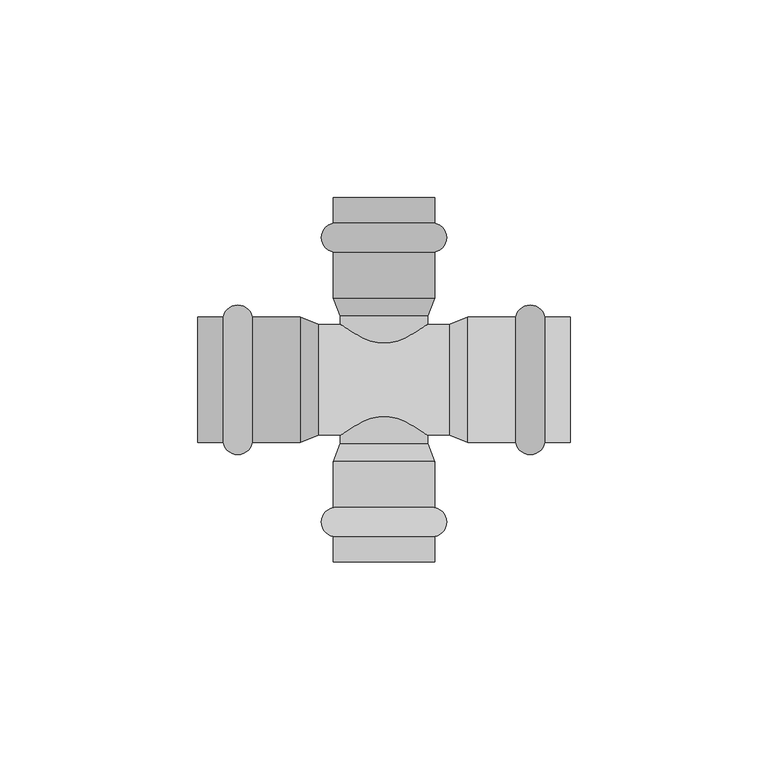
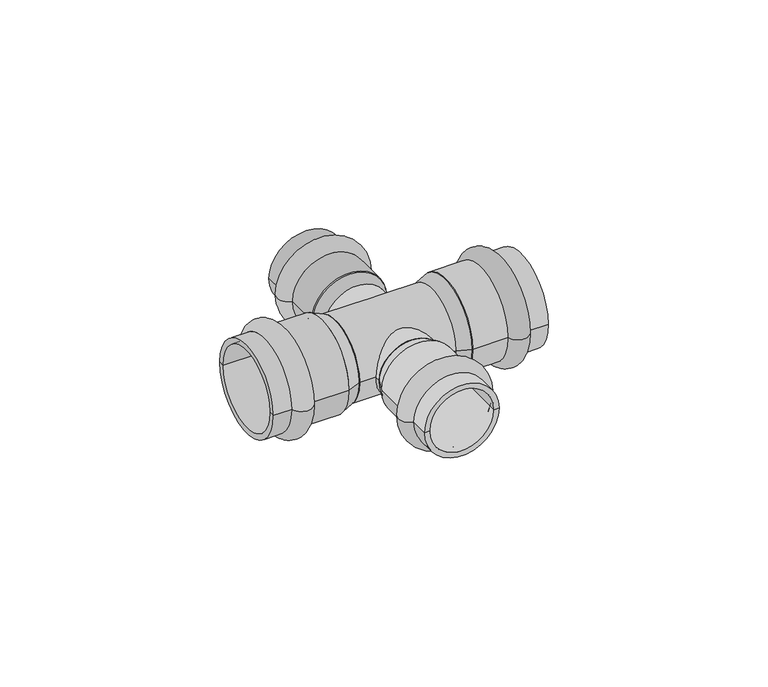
"""IFC4 building model written with IfcOpenShell, lengths in millimetres: pipe fitting geometry, VALTEC_VTi.941.I_Крестовина нержавеющая сталь : VTi.941.I."""

from ifc_helpers import new_model, si_unit, point, frame, origin, origin_2d, place, context, project, spatial, polyline, circle_curve, ellipse_curve, trimmed, segment, composite_curve, outline, extrude, source, transform, mapped, element, save
from ifc_brep_helpers import plane_surface, cylinder_surface, revolved_surface, advanced_brep


def pipe_fitting_5b3067d8(model_context):
    return source(origin(), model_context, "Body", "SolidModel", [
        advanced_brep(
        [(12.8, -39.6242346, 0.0), (-12.8, -39.6242346, 0.0), (-12.8, -32.2757654, 0.0), (12.8, -32.2757654, 0.0), (12.8, -46.0, 0.0), (-12.8, -46.0, 0.0), (11.0, -46.0, 0.0), (-11.0, -46.0, 0.0), (11.0, -20.7, 0.0), (-11.0, -20.7, 0.0), (12.8, -20.7, 0.0), (-12.8, -20.7, 0.0)],
        [
            (0, 1, circle_curve(frame((0.0, -39.6242346, 0.0), z_axis=(0.0, 1.0, 0.0), x_axis=(-1.0, 0.0, 0.0)), 12.8)),
            (1, 2, circle_curve(frame((-12.05, -35.95, 0.0), z_axis=(0.0, 0.0, -1.0), x_axis=(0.0, 1.0, 0.0)), 3.75)),
            (2, 3, circle_curve(frame((0.0, -32.2757654, 0.0), z_axis=(0.0, -1.0, 0.0), x_axis=(-1.0, 0.0, 0.0)), 12.8)),
            (3, 0, circle_curve(frame((12.05, -35.95, 0.0), z_axis=(0.0, 0.0, -1.0), x_axis=(0.0, 1.0, 0.0)), 3.75)),
            (1, 0, circle_curve(frame((0.0, -39.6242346, 0.0), z_axis=(0.0, 1.0, 0.0), x_axis=(-1.0, 0.0, 0.0)), 12.8)),
            (3, 2, circle_curve(frame((0.0, -32.2757654, 0.0), z_axis=(0.0, -1.0, 0.0), x_axis=(-1.0, 0.0, 0.0)), 12.8)),
            (4, 5, circle_curve(frame((0.0, -46.0, 0.0), z_axis=(0.0, 1.0, 0.0), x_axis=(-1.0, 0.0, 0.0)), 12.8)),
            (5, 1),
            (0, 4),
            (5, 4, circle_curve(frame((0.0, -46.0, 0.0), z_axis=(0.0, 1.0, 0.0), x_axis=(-1.0, 0.0, 0.0)), 12.8)),
            (6, 7, circle_curve(frame((0.0, -46.0, 0.0), z_axis=(0.0, 1.0, 0.0), x_axis=(-1.0, 0.0, 0.0)), 11.0)),
            (7, 5),
            (4, 6),
            (7, 6, circle_curve(frame((0.0, -46.0, 0.0), z_axis=(0.0, 1.0, 0.0), x_axis=(-1.0, 0.0, 0.0)), 11.0)),
            (8, 9, circle_curve(frame((0.0, -20.7, 0.0), z_axis=(0.0, 1.0, 0.0), x_axis=(-1.0, 0.0, 0.0)), 11.0)),
            (9, 7),
            (6, 8),
            (9, 8, circle_curve(frame((0.0, -20.7, 0.0), z_axis=(0.0, 1.0, 0.0), x_axis=(-1.0, 0.0, 0.0)), 11.0)),
            (10, 11, circle_curve(frame((0.0, -20.7, 0.0), z_axis=(0.0, 1.0, 0.0), x_axis=(-1.0, 0.0, 0.0)), 12.8)),
            (11, 9),
            (8, 10),
            (11, 10, circle_curve(frame((0.0, -20.7, 0.0), z_axis=(0.0, 1.0, 0.0), x_axis=(-1.0, 0.0, 0.0)), 12.8)),
            (2, 11),
            (10, 3),
        ],
        [
            revolved_surface(trimmed(ellipse_curve(frame((-12.05, -35.95, 0.0), z_axis=(0.0, 0.0, 1.0), x_axis=(0.0, 1.0, 0.0)), 3.75, 3.75), [point((-12.8, -32.2757654, 0.0))], [point((-12.8, -39.6242346, 0.0))], True, "CARTESIAN"), (0.0, -49.5364426, 0.0), (0.0, -1.0, 0.0)),
            cylinder_surface(frame((0.0, -49.5364426, 0.0), z_axis=(0.0, -1.0, 0.0), x_axis=(-1.0, 0.0, 0.0)), 12.8),
            plane_surface(frame((0.0, -46.0, 0.0), z_axis=(0.0, -1.0, 0.0), x_axis=(-1.0, 0.0, 0.0))),
            revolved_surface(polyline([(-11.0, -46.0, 0.0), (-11.0, -20.7, 0.0)]), (0.0, -49.5364426, 0.0), (0.0, -1.0, 0.0)),
            plane_surface(frame((0.0, -20.7, 0.0), z_axis=(0.0, 1.0, 0.0), x_axis=(-1.0, 0.0, 0.0))),
        ],
        [
            (0, [[1, 2, 3, 4]]),
            (0, [[5, -4, 6, -2]]),
            (1, [[7, 8, -1, 9]]),
            (1, [[10, -9, -5, -8]]),
            (2, [[11, 12, -7, 13]]),
            (2, [[14, -13, -10, -12]]),
            (3, [[15, 16, -11, 17]]),
            (3, [[18, -17, -14, -16]]),
            (4, [[19, 20, -15, 21]]),
            (4, [[22, -21, -18, -20]]),
            (1, [[-3, 23, -19, 24]]),
            (1, [[-6, -24, -22, -23]]),
        ],
    ),
        advanced_brep(
        [(40.6242346, 15.9, 0.0), (40.6242346, -15.9, 0.0), (33.2757654, -15.9, 0.0), (33.2757654, 15.9, 0.0), (47.0, 15.9, 0.0), (47.0, -15.9, 0.0), (47.0, 14.0, 0.0), (47.0, -14.0, 0.0), (21.15, 14.0, 0.0), (21.15, -14.0, 0.0), (21.15, 15.9, 0.0), (21.15, -15.9, 0.0)],
        [
            (0, 1, circle_curve(frame((40.6242346, 0.0, 0.0), z_axis=(-1.0, 0.0, 0.0), x_axis=(0.0, -1.0, 0.0)), 15.9)),
            (1, 2, circle_curve(frame((36.95, -15.15, 0.0), z_axis=(0.0, 0.0, -1.0), x_axis=(-1.0, 0.0, 0.0)), 3.75)),
            (2, 3, circle_curve(frame((33.2757654, 0.0, 0.0), z_axis=(1.0, 0.0, 0.0), x_axis=(0.0, -1.0, 0.0)), 15.9)),
            (3, 0, circle_curve(frame((36.95, 15.15, 0.0), z_axis=(0.0, 0.0, -1.0), x_axis=(-1.0, 0.0, 0.0)), 3.75)),
            (1, 0, circle_curve(frame((40.6242346, 0.0, 0.0), z_axis=(-1.0, 0.0, 0.0), x_axis=(0.0, -1.0, 0.0)), 15.9)),
            (3, 2, circle_curve(frame((33.2757654, 0.0, 0.0), z_axis=(1.0, 0.0, 0.0), x_axis=(0.0, -1.0, 0.0)), 15.9)),
            (4, 5, circle_curve(frame((47.0, 0.0, 0.0), z_axis=(-1.0, 0.0, 0.0), x_axis=(0.0, -1.0, 0.0)), 15.9)),
            (5, 1),
            (0, 4),
            (5, 4, circle_curve(frame((47.0, 0.0, 0.0), z_axis=(-1.0, 0.0, 0.0), x_axis=(0.0, -1.0, 0.0)), 15.9)),
            (6, 7, circle_curve(frame((47.0, 0.0, 0.0), z_axis=(-1.0, 0.0, 0.0), x_axis=(0.0, -1.0, 0.0)), 14.0)),
            (7, 5),
            (4, 6),
            (7, 6, circle_curve(frame((47.0, 0.0, 0.0), z_axis=(-1.0, 0.0, 0.0), x_axis=(0.0, -1.0, 0.0)), 14.0)),
            (8, 9, circle_curve(frame((21.15, 0.0, 0.0), z_axis=(-1.0, 0.0, 0.0), x_axis=(0.0, -1.0, 0.0)), 14.0)),
            (9, 7),
            (6, 8),
            (9, 8, circle_curve(frame((21.15, 0.0, 0.0), z_axis=(-1.0, 0.0, 0.0), x_axis=(0.0, -1.0, 0.0)), 14.0)),
            (10, 11, circle_curve(frame((21.15, 0.0, 0.0), z_axis=(-1.0, 0.0, 0.0), x_axis=(0.0, -1.0, 0.0)), 15.9)),
            (11, 9),
            (8, 10),
            (11, 10, circle_curve(frame((21.15, 0.0, 0.0), z_axis=(-1.0, 0.0, 0.0), x_axis=(0.0, -1.0, 0.0)), 15.9)),
            (2, 11),
            (10, 3),
        ],
        [
            revolved_surface(trimmed(ellipse_curve(frame((36.95, -15.15, 0.0), z_axis=(0.0, 0.0, 1.0), x_axis=(-1.0, 0.0, 0.0)), 3.75, 3.75), [point((33.2757654, -15.9, 0.0))], [point((40.6242346, -15.9, 0.0))], True, "CARTESIAN"), (50.5364426, 0.0, 0.0), (1.0, 0.0, 0.0)),
            cylinder_surface(frame((50.5364426, 0.0, 0.0), z_axis=(1.0, 0.0, 0.0), x_axis=(0.0, -1.0, 0.0)), 15.9),
            plane_surface(frame((47.0, 0.0, 0.0), z_axis=(1.0, 0.0, 0.0), x_axis=(0.0, -1.0, 0.0))),
            revolved_surface(polyline([(47.0, -14.0, 0.0), (21.15, -14.0, 0.0)]), (50.5364426, 0.0, 0.0), (1.0, 0.0, 0.0)),
            plane_surface(frame((21.15, 0.0, 0.0), z_axis=(-1.0, 0.0, 0.0), x_axis=(0.0, -1.0, 0.0))),
        ],
        [
            (0, [[1, 2, 3, 4]]),
            (0, [[5, -4, 6, -2]]),
            (1, [[7, 8, -1, 9]]),
            (1, [[10, -9, -5, -8]]),
            (2, [[11, 12, -7, 13]]),
            (2, [[14, -13, -10, -12]]),
            (3, [[15, 16, -11, 17]]),
            (3, [[18, -17, -14, -16]]),
            (4, [[19, 20, -15, 21]]),
            (4, [[22, -21, -18, -20]]),
            (1, [[-3, 23, -19, 24]]),
            (1, [[-6, -24, -22, -23]]),
        ],
    ),
        advanced_brep(
        [(-40.6242346, -15.9, 0.0), (-40.6242346, 15.9, 0.0), (-33.2757654, 15.9, 0.0), (-33.2757654, -15.9, 0.0), (-47.0, -15.9, 0.0), (-47.0, 15.9, 0.0), (-47.0, -14.0, 0.0), (-47.0, 14.0, 0.0), (-21.15, -14.0, 0.0), (-21.15, 14.0, 0.0), (-21.15, -15.9, 0.0), (-21.15, 15.9, 0.0)],
        [
            (0, 1, circle_curve(frame((-40.6242346, 0.0, 0.0), z_axis=(1.0, 0.0, 0.0), x_axis=(0.0, 1.0, 0.0)), 15.9)),
            (1, 2, circle_curve(frame((-36.95, 15.15, 0.0), z_axis=(0.0, 0.0, -1.0), x_axis=(1.0, 0.0, 0.0)), 3.75)),
            (2, 3, circle_curve(frame((-33.2757654, 0.0, 0.0), z_axis=(-1.0, 0.0, 0.0), x_axis=(0.0, 1.0, 0.0)), 15.9)),
            (3, 0, circle_curve(frame((-36.95, -15.15, 0.0), z_axis=(0.0, 0.0, -1.0), x_axis=(1.0, 0.0, 0.0)), 3.75)),
            (1, 0, circle_curve(frame((-40.6242346, 0.0, 0.0), z_axis=(1.0, 0.0, 0.0), x_axis=(0.0, 1.0, 0.0)), 15.9)),
            (3, 2, circle_curve(frame((-33.2757654, 0.0, 0.0), z_axis=(-1.0, 0.0, 0.0), x_axis=(0.0, 1.0, 0.0)), 15.9)),
            (4, 5, circle_curve(frame((-47.0, 0.0, 0.0), z_axis=(1.0, 0.0, 0.0), x_axis=(0.0, 1.0, 0.0)), 15.9)),
            (5, 1),
            (0, 4),
            (5, 4, circle_curve(frame((-47.0, 0.0, 0.0), z_axis=(1.0, 0.0, 0.0), x_axis=(0.0, 1.0, 0.0)), 15.9)),
            (6, 7, circle_curve(frame((-47.0, 0.0, 0.0), z_axis=(1.0, 0.0, 0.0), x_axis=(0.0, 1.0, 0.0)), 14.0)),
            (7, 5),
            (4, 6),
            (7, 6, circle_curve(frame((-47.0, 0.0, 0.0), z_axis=(1.0, 0.0, 0.0), x_axis=(0.0, 1.0, 0.0)), 14.0)),
            (8, 9, circle_curve(frame((-21.15, 0.0, 0.0), z_axis=(1.0, 0.0, 0.0), x_axis=(0.0, 1.0, 0.0)), 14.0)),
            (9, 7),
            (6, 8),
            (9, 8, circle_curve(frame((-21.15, 0.0, 0.0), z_axis=(1.0, 0.0, 0.0), x_axis=(0.0, 1.0, 0.0)), 14.0)),
            (10, 11, circle_curve(frame((-21.15, 0.0, 0.0), z_axis=(1.0, 0.0, 0.0), x_axis=(0.0, 1.0, 0.0)), 15.9)),
            (11, 9),
            (8, 10),
            (11, 10, circle_curve(frame((-21.15, 0.0, 0.0), z_axis=(1.0, 0.0, 0.0), x_axis=(0.0, 1.0, 0.0)), 15.9)),
            (2, 11),
            (10, 3),
        ],
        [
            revolved_surface(trimmed(ellipse_curve(frame((-36.95, 15.15, 0.0), z_axis=(0.0, 0.0, 1.0), x_axis=(1.0, 0.0, 0.0)), 3.75, 3.75), [point((-33.2757654, 15.9, 0.0))], [point((-40.6242346, 15.9, 0.0))], True, "CARTESIAN"), (-50.5364426, 0.0, 0.0), (-1.0, 0.0, 0.0)),
            cylinder_surface(frame((-50.5364426, 0.0, 0.0), z_axis=(-1.0, 0.0, 0.0), x_axis=(0.0, 1.0, 0.0)), 15.9),
            plane_surface(frame((-47.0, 0.0, 0.0), z_axis=(-1.0, 0.0, 0.0), x_axis=(0.0, 1.0, 0.0))),
            revolved_surface(polyline([(-47.0, 14.0, 0.0), (-21.15, 14.0, 0.0)]), (-50.5364426, 0.0, 0.0), (-1.0, 0.0, 0.0)),
            plane_surface(frame((-21.15, 0.0, 0.0), z_axis=(1.0, 0.0, 0.0), x_axis=(0.0, 1.0, 0.0))),
        ],
        [
            (0, [[1, 2, 3, 4]]),
            (0, [[5, -4, 6, -2]]),
            (1, [[7, 8, -1, 9]]),
            (1, [[10, -9, -5, -8]]),
            (2, [[11, 12, -7, 13]]),
            (2, [[14, -13, -10, -12]]),
            (3, [[15, 16, -11, 17]]),
            (3, [[18, -17, -14, -16]]),
            (4, [[19, 20, -15, 21]]),
            (4, [[22, -21, -18, -20]]),
            (1, [[-3, 23, -19, 24]]),
            (1, [[-6, -24, -22, -23]]),
        ],
    ),
        advanced_brep(
        [(-12.8, 39.6242346, 0.0), (12.8, 39.6242346, 0.0), (12.8, 32.2757654, 0.0), (-12.8, 32.2757654, 0.0), (-12.8, 46.0, 0.0), (12.8, 46.0, 0.0), (-11.0, 46.0, 0.0), (11.0, 46.0, 0.0), (-11.0, 20.7, 0.0), (11.0, 20.7, 0.0), (-12.8, 20.7, 0.0), (12.8, 20.7, 0.0)],
        [
            (0, 1, circle_curve(frame((0.0, 39.6242346, 0.0), z_axis=(0.0, -1.0, 0.0), x_axis=(1.0, 0.0, 0.0)), 12.8)),
            (1, 2, circle_curve(frame((12.05, 35.95, 0.0), z_axis=(0.0, 0.0, -1.0), x_axis=(0.0, -1.0, 0.0)), 3.75)),
            (2, 3, circle_curve(frame((0.0, 32.2757654, 0.0), z_axis=(0.0, 1.0, 0.0), x_axis=(1.0, 0.0, 0.0)), 12.8)),
            (3, 0, circle_curve(frame((-12.05, 35.95, 0.0), z_axis=(0.0, 0.0, -1.0), x_axis=(0.0, -1.0, 0.0)), 3.75)),
            (1, 0, circle_curve(frame((0.0, 39.6242346, 0.0), z_axis=(0.0, -1.0, 0.0), x_axis=(1.0, 0.0, 0.0)), 12.8)),
            (3, 2, circle_curve(frame((0.0, 32.2757654, 0.0), z_axis=(0.0, 1.0, 0.0), x_axis=(1.0, 0.0, 0.0)), 12.8)),
            (4, 5, circle_curve(frame((0.0, 46.0, 0.0), z_axis=(0.0, -1.0, 0.0), x_axis=(1.0, 0.0, 0.0)), 12.8)),
            (5, 1),
            (0, 4),
            (5, 4, circle_curve(frame((0.0, 46.0, 0.0), z_axis=(0.0, -1.0, 0.0), x_axis=(1.0, 0.0, 0.0)), 12.8)),
            (6, 7, circle_curve(frame((0.0, 46.0, 0.0), z_axis=(0.0, -1.0, 0.0), x_axis=(1.0, 0.0, 0.0)), 11.0)),
            (7, 5),
            (4, 6),
            (7, 6, circle_curve(frame((0.0, 46.0, 0.0), z_axis=(0.0, -1.0, 0.0), x_axis=(1.0, 0.0, 0.0)), 11.0)),
            (8, 9, circle_curve(frame((0.0, 20.7, 0.0), z_axis=(0.0, -1.0, 0.0), x_axis=(1.0, 0.0, 0.0)), 11.0)),
            (9, 7),
            (6, 8),
            (9, 8, circle_curve(frame((0.0, 20.7, 0.0), z_axis=(0.0, -1.0, 0.0), x_axis=(1.0, 0.0, 0.0)), 11.0)),
            (10, 11, circle_curve(frame((0.0, 20.7, 0.0), z_axis=(0.0, -1.0, 0.0), x_axis=(1.0, 0.0, 0.0)), 12.8)),
            (11, 9),
            (8, 10),
            (11, 10, circle_curve(frame((0.0, 20.7, 0.0), z_axis=(0.0, -1.0, 0.0), x_axis=(1.0, 0.0, 0.0)), 12.8)),
            (2, 11),
            (10, 3),
        ],
        [
            revolved_surface(trimmed(ellipse_curve(frame((12.05, 35.95, 0.0), z_axis=(0.0, 0.0, 1.0), x_axis=(0.0, -1.0, 0.0)), 3.75, 3.75), [point((12.8, 32.2757654, 0.0))], [point((12.8, 39.6242346, 0.0))], True, "CARTESIAN"), (0.0, 49.5364426, 0.0), (0.0, 1.0, 0.0)),
            cylinder_surface(frame((0.0, 49.5364426, 0.0), z_axis=(0.0, 1.0, 0.0), x_axis=(1.0, 0.0, 0.0)), 12.8),
            plane_surface(frame((0.0, 46.0, 0.0), z_axis=(0.0, 1.0, 0.0), x_axis=(1.0, 0.0, 0.0))),
            revolved_surface(polyline([(11.0, 46.0, 0.0), (11.0, 20.7, 0.0)]), (0.0, 49.5364426, 0.0), (0.0, 1.0, 0.0)),
            plane_surface(frame((0.0, 20.7, 0.0), z_axis=(0.0, -1.0, 0.0), x_axis=(1.0, 0.0, 0.0))),
        ],
        [
            (0, [[1, 2, 3, 4]]),
            (0, [[5, -4, 6, -2]]),
            (1, [[7, 8, -1, 9]]),
            (1, [[10, -9, -5, -8]]),
            (2, [[11, 12, -7, 13]]),
            (2, [[14, -13, -10, -12]]),
            (3, [[15, 16, -11, 17]]),
            (3, [[18, -17, -14, -16]]),
            (4, [[19, 20, -15, 21]]),
            (4, [[22, -21, -18, -20]]),
            (1, [[-3, 23, -19, 24]]),
            (1, [[-6, -24, -22, -23]]),
        ],
    ),
        extrude(outline(composite_curve([segment(trimmed(circle_curve(origin_2d(), 14.0), [point((-14.0, 0.0))], [point((14.0, 0.0))], False, "CARTESIAN"), True, "CONTINUOUS"), segment(trimmed(circle_curve(origin_2d(), 14.0), [point((14.0, 0.0))], [point((-14.0, 0.0))], False, "CARTESIAN"), True, "CONTINUOUS")], self_intersect=False)), frame((-16.45, 0.0, 0.0), z_axis=(1.0, 0.0, 0.0), x_axis=(0.0, 1.0, 0.0)), (0.0, 0.0, 1.0), 32.9),
        extrude(outline(composite_curve([segment(trimmed(circle_curve(origin_2d(), 11.0), [point((0.0, -11.0))], [point((0.0, 11.0))], False, "CARTESIAN"), True, "CONTINUOUS"), segment(trimmed(circle_curve(origin_2d(), 11.0), [point((0.0, 11.0))], [point((0.0, -11.0))], False, "CARTESIAN"), True, "CONTINUOUS")], self_intersect=False)), frame((0.0, -16.1, 0.0), z_axis=(0.0, 1.0, 0.0), x_axis=(0.0, 0.0, 1.0)), (0.0, 0.0, 1.0), 32.2),
        advanced_brep(
        [(-21.15, -15.9, 0.0), (-21.15, 15.9, 0.0), (-16.45, -14.0, 0.0), (-16.45, 14.0, 0.0)],
        [
            (0, 1, circle_curve(frame((-21.15, 0.0, 0.0), z_axis=(-1.0, 0.0, 0.0), x_axis=(0.0, -1.0, 0.0)), 15.9)),
            (1, 0, circle_curve(frame((-21.15, 0.0, 0.0), z_axis=(-1.0, 0.0, 0.0), x_axis=(0.0, 1.0, 0.0)), 15.9)),
            (2, 3, circle_curve(frame((-16.45, 0.0, 0.0), z_axis=(1.0, 0.0, 0.0), x_axis=(0.0, 1.0, 0.0)), 14.0)),
            (3, 2, circle_curve(frame((-16.45, 0.0, 0.0), z_axis=(1.0, 0.0, 0.0), x_axis=(0.0, -1.0, 0.0)), 14.0)),
            (2, 0),
            (1, 3),
        ],
        [
            plane_surface(frame((-21.15, 0.0, 0.0), z_axis=(-1.0, 0.0, 0.0), x_axis=(0.0, 0.0, 1.0))),
            plane_surface(frame((-16.45, 0.0, 0.0), z_axis=(1.0, 0.0, 0.0), x_axis=(0.0, 0.0, 1.0))),
            revolved_surface(polyline([(-16.45, -13.999999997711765, 0.0), (-21.149999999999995, -15.9, 0.0)]), (18.1815789, 0.0, 0.0), (-1.0, 0.0, 0.0)),
            revolved_surface(polyline([(-16.45, 13.999999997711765, 0.0), (-21.149999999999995, 15.9, 0.0)]), (18.1815789, 0.0, 0.0), (-1.0, 0.0, 0.0)),
        ],
        [
            (0, [[1, 2]]),
            (1, [[3, 4]]),
            (2, [[-3, 5, -2, 6]]),
            (3, [[-4, -6, -1, -5]]),
        ],
    ),
        advanced_brep(
        [(21.15, -15.9, 0.0), (21.15, 15.9, 0.0), (16.45, -14.0, 0.0), (16.45, 14.0, 0.0)],
        [
            (0, 1, circle_curve(frame((21.15, 0.0, 0.0), z_axis=(1.0, 0.0, 0.0), x_axis=(0.0, -1.0, 0.0)), 15.9)),
            (1, 0, circle_curve(frame((21.15, 0.0, 0.0), z_axis=(1.0, 0.0, 0.0), x_axis=(0.0, 1.0, 0.0)), 15.9)),
            (2, 3, circle_curve(frame((16.45, 0.0, 0.0), z_axis=(-1.0, 0.0, 0.0), x_axis=(0.0, 1.0, 0.0)), 14.0)),
            (3, 2, circle_curve(frame((16.45, 0.0, 0.0), z_axis=(-1.0, 0.0, 0.0), x_axis=(0.0, -1.0, 0.0)), 14.0)),
            (3, 1),
            (0, 2),
        ],
        [
            plane_surface(frame((21.15, 0.0, 0.0), z_axis=(1.0, 0.0, 0.0), x_axis=(0.0, 0.0, -1.0))),
            plane_surface(frame((16.45, 0.0, 0.0), z_axis=(-1.0, 0.0, 0.0), x_axis=(0.0, 0.0, -1.0))),
            revolved_surface(polyline([(16.45, 13.999999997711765, 0.0), (21.149999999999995, 15.9, 0.0)]), (-18.1815789, 0.0, 0.0), (1.0, 0.0, 0.0)),
            revolved_surface(polyline([(16.45, -13.999999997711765, 0.0), (21.149999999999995, -15.9, 0.0)]), (-18.1815789, 0.0, 0.0), (1.0, 0.0, 0.0)),
        ],
        [
            (0, [[1, 2]]),
            (1, [[3, 4]]),
            (2, [[-4, 5, -1, 6]]),
            (3, [[-3, -6, -2, -5]]),
        ],
    ),
        advanced_brep(
        [(-12.8, -20.7, 0.0), (12.8, -20.7, 0.0), (-11.0, -16.1, 0.0), (11.0, -16.1, 0.0)],
        [
            (0, 1, circle_curve(frame((0.0, -20.7, 0.0), z_axis=(0.0, -1.0, 0.0), x_axis=(-1.0, 0.0, 0.0)), 12.8)),
            (1, 0, circle_curve(frame((0.0, -20.7, 0.0), z_axis=(0.0, -1.0, 0.0), x_axis=(1.0, 0.0, 0.0)), 12.8)),
            (2, 3, circle_curve(frame((0.0, -16.1, 0.0), z_axis=(0.0, 1.0, 0.0), x_axis=(1.0, 0.0, 0.0)), 11.0)),
            (3, 2, circle_curve(frame((0.0, -16.1, 0.0), z_axis=(0.0, 1.0, 0.0), x_axis=(-1.0, 0.0, 0.0)), 11.0)),
            (3, 1),
            (0, 2),
        ],
        [
            plane_surface(frame((0.0, -20.7, 0.0), z_axis=(0.0, -1.0, 0.0), x_axis=(0.0, 0.0, 1.0))),
            plane_surface(frame((0.0, -16.1, 0.0), z_axis=(0.0, 1.0, 0.0), x_axis=(0.0, 0.0, 1.0))),
            revolved_surface(polyline([(10.99999999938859, -16.1, 0.0), (12.8, -20.699999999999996, 0.0)]), (0.0, 12.0111111, 0.0), (0.0, -1.0, 0.0)),
            revolved_surface(polyline([(-10.99999999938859, -16.1, 0.0), (-12.8, -20.699999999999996, 0.0)]), (0.0, 12.0111111, 0.0), (0.0, -1.0, 0.0)),
        ],
        [
            (0, [[1, 2]]),
            (1, [[3, 4]]),
            (2, [[-4, 5, -1, 6]]),
            (3, [[-3, -6, -2, -5]]),
        ],
    ),
        advanced_brep(
        [(-12.8, 20.7, 0.0), (12.8, 20.7, 0.0), (-11.0, 16.1, 0.0), (11.0, 16.1, 0.0)],
        [
            (0, 1, circle_curve(frame((0.0, 20.7, 0.0), z_axis=(0.0, 1.0, 0.0), x_axis=(-1.0, 0.0, 0.0)), 12.8)),
            (1, 0, circle_curve(frame((0.0, 20.7, 0.0), z_axis=(0.0, 1.0, 0.0), x_axis=(1.0, 0.0, 0.0)), 12.8)),
            (2, 3, circle_curve(frame((0.0, 16.1, 0.0), z_axis=(0.0, -1.0, 0.0), x_axis=(1.0, 0.0, 0.0)), 11.0)),
            (3, 2, circle_curve(frame((0.0, 16.1, 0.0), z_axis=(0.0, -1.0, 0.0), x_axis=(-1.0, 0.0, 0.0)), 11.0)),
            (2, 0),
            (1, 3),
        ],
        [
            plane_surface(frame((0.0, 20.7, 0.0), z_axis=(0.0, 1.0, 0.0), x_axis=(0.0, 0.0, -1.0))),
            plane_surface(frame((0.0, 16.1, 0.0), z_axis=(0.0, -1.0, 0.0), x_axis=(0.0, 0.0, -1.0))),
            revolved_surface(polyline([(-10.99999999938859, 16.1, 0.0), (-12.8, 20.699999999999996, 0.0)]), (0.0, -12.0111111, 0.0), (0.0, 1.0, 0.0)),
            revolved_surface(polyline([(10.99999999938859, 16.1, 0.0), (12.8, 20.699999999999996, 0.0)]), (0.0, -12.0111111, 0.0), (0.0, 1.0, 0.0)),
        ],
        [
            (0, [[1, 2]]),
            (1, [[3, 4]]),
            (2, [[-3, 5, -2, 6]]),
            (3, [[-4, -6, -1, -5]]),
        ],
    ),
    ])


if __name__ == "__main__":
    model = new_model("IFC4")
    model_context = context("Model", 3, world=origin())
    ifc_project = project(units=[si_unit("LENGTHUNIT", "METRE", prefix="MILLI")], contexts=[model_context])
    site = spatial("IfcSite", under=ifc_project)
    building = spatial("IfcBuilding", under=site)
    placement = place(None, origin())
    pipe_fitting_shape = pipe_fitting_5b3067d8(model_context)
    element("IfcPipeFitting", 1, ObjectType="VALTEC_VTi.941.I_Крестовина нержавеющая сталь : VTi.941.I", at=placement, inside=building, context=model_context, shape_type="MappedRepresentation", body=[
        mapped(pipe_fitting_shape, transform((0.0, 0.0, 0.0), x_axis=(1.0, 0.0, 0.0), y_axis=(0.0, 1.0, 0.0), z_axis=(0.0, 0.0, 1.0))),
    ])
    save(model, "model.ifc")
